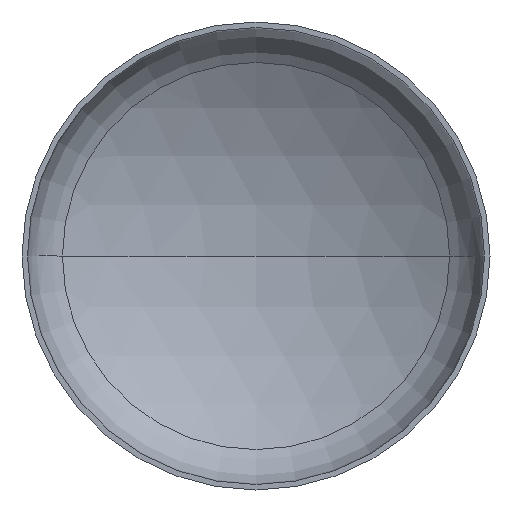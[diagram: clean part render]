
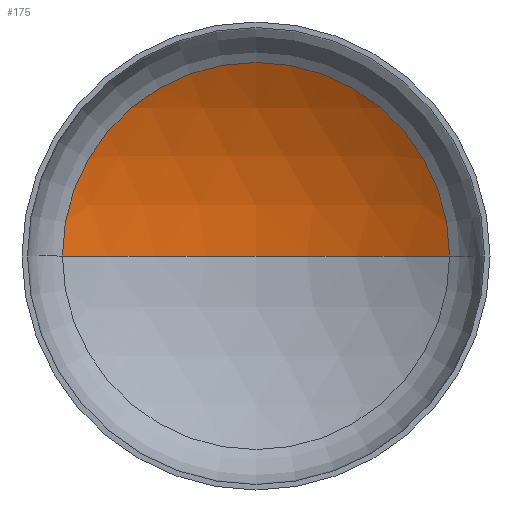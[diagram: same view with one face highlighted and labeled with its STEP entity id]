
A CAD part, front view. The second image highlights one B-rep face of the part: STEP entity #175.
In plain terms, the highlighted spherical face has radius 2720 mm.
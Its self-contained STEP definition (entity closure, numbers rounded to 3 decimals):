
#12 = AXIS2_PLACEMENT_3D ( 'NONE', #24, #250, #252 ) ;
#14 = AXIS2_PLACEMENT_3D ( 'NONE', #106, #100, #105 ) ;
#24 = CARTESIAN_POINT ( 'NONE',  ( 0., -1758.776, 0. ) ) ;
#26 = AXIS2_PLACEMENT_3D ( 'NONE', #147, #80, #154 ) ;
#57 = VERTEX_POINT ( 'NONE', #199 ) ;
#77 = SPHERICAL_SURFACE ( 'NONE', #26, 2720. ) ;
#80 = DIRECTION ( 'NONE',  ( 0., 0., -1. ) ) ;
#100 = DIRECTION ( 'NONE',  ( 0., -1., 0. ) ) ;
#105 = DIRECTION ( 'NONE',  ( 1., 0., 0. ) ) ;
#106 = CARTESIAN_POINT ( 'NONE',  ( 0., 569.366, 0. ) ) ;
#107 = CIRCLE ( 'NONE', #281, 2720. ) ;
#109 = DIRECTION ( 'NONE',  ( 0., 0., 1. ) ) ;
#123 = CARTESIAN_POINT ( 'NONE',  ( 0., 961.224, 0. ) ) ;
#134 = CIRCLE ( 'NONE', #14, 1406.469 ) ;
#147 = CARTESIAN_POINT ( 'NONE',  ( 0., -1758.776, 0. ) ) ;
#154 = DIRECTION ( 'NONE',  ( -1., 0., 0. ) ) ;
#155 = ORIENTED_EDGE ( 'NONE', *, *, #323, .T. ) ;
#168 = ORIENTED_EDGE ( 'NONE', *, *, #328, .T. ) ;
#175 = ADVANCED_FACE ( 'NONE', ( #374 ), #77, .F. ) ;
#195 = CIRCLE ( 'NONE', #12, 2720. ) ;
#199 = CARTESIAN_POINT ( 'NONE',  ( 1406.469, 569.366, 0. ) ) ;
#222 = VERTEX_POINT ( 'NONE', #395 ) ;
#250 = DIRECTION ( 'NONE',  ( 0., 0., -1. ) ) ;
#252 = DIRECTION ( 'NONE',  ( -1., 0., 0. ) ) ;
#281 = AXIS2_PLACEMENT_3D ( 'NONE', #372, #109, #317 ) ;
#316 = VERTEX_POINT ( 'NONE', #123 ) ;
#317 = DIRECTION ( 'NONE',  ( 1., 0., 0. ) ) ;
#323 = EDGE_CURVE ( 'NONE', #57, #222, #134, .T. ) ;
#328 = EDGE_CURVE ( 'NONE', #316, #57, #195, .T. ) ;
#367 = EDGE_LOOP ( 'NONE', ( #369, #168, #155 ) ) ;
#369 = ORIENTED_EDGE ( 'NONE', *, *, #377, .F. ) ;
#372 = CARTESIAN_POINT ( 'NONE',  ( 0., -1758.776, 0. ) ) ;
#374 = FACE_OUTER_BOUND ( 'NONE', #367, .T. ) ;
#377 = EDGE_CURVE ( 'NONE', #316, #222, #107, .T. ) ;
#395 = CARTESIAN_POINT ( 'NONE',  ( -1406.469, 569.366, 0. ) ) ;
